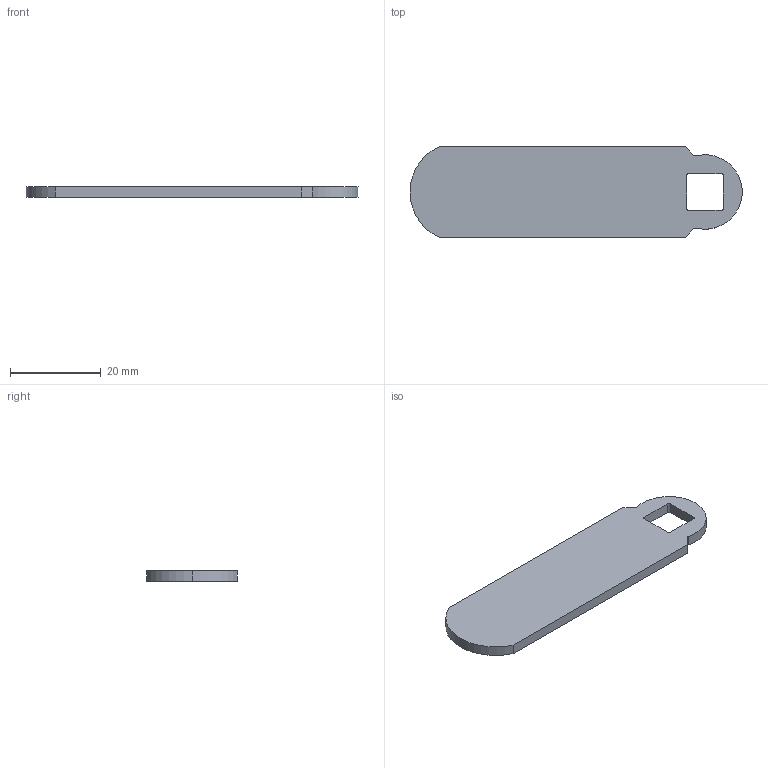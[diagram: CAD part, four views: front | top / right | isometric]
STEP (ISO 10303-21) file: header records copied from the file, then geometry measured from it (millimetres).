
FILE_DESCRIPTION (( 'STEP AP214' ), '1' );
FILE_NAME ('EB-27.STEP', '2016-01-30T09:15:21', ( '' ), ( '' ), 'SwSTEP 2.0', 'SolidWorks 2012', '' );
FILE_SCHEMA (( 'AUTOMOTIVE_DESIGN' ));
Length unit declared in the file: millimetre
Products named in the file (1): EB-27
Bounding box: 73.17 x 20 x 2.3 mm (x, y, z)
Volume: 2969.8 mm3; surface area: 3045.3 mm2
Topology: 1 solids, 1 shells, 19 faces, 51 edges, 34 vertices
Faces by surface type: plane 10, cylinder 9
Entity records: 641 total; most frequent: DIRECTION 109, CARTESIAN_POINT 105, ORIENTED_EDGE 102, EDGE_CURVE 51, AXIS2_PLACEMENT_3D 38, VERTEX_POINT 34, VECTOR 33, LINE 33
